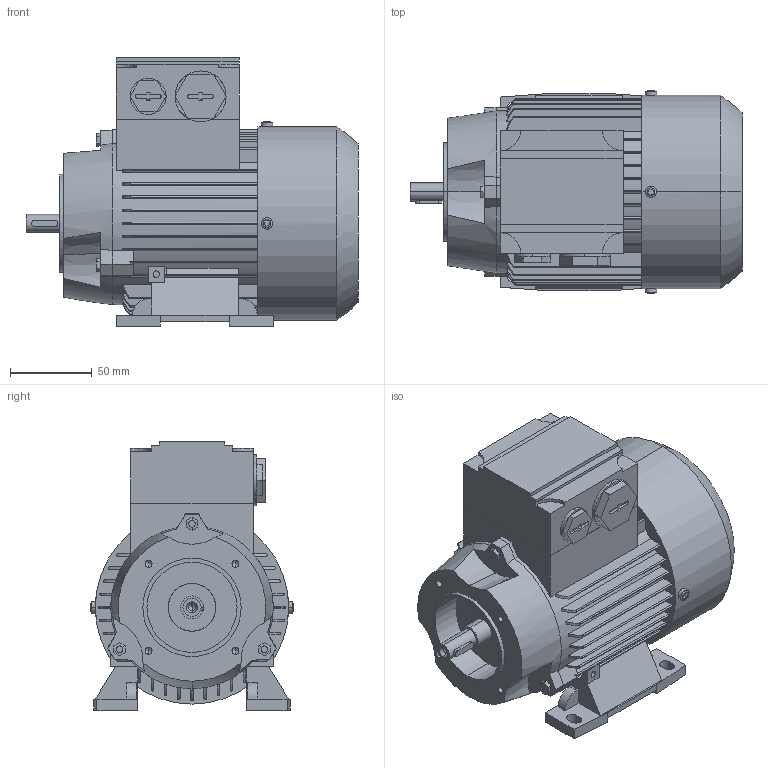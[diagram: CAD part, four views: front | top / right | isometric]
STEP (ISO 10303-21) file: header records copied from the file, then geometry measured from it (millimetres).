
FILE_DESCRIPTION (( 'STEP AP214' ), '1' );
FILE_NAME ('5RN63M04E22 IM2181-A.STEP', '2022-08-09T09:26:00', ( '' ), ( '' ), 'SwSTEP 2.0', 'SolidWorks 2021', '' );
FILE_SCHEMA (( 'AUTOMOTIVE_DESIGN' ));
Length unit declared in the file: millimetre
Products named in the file (1): 5RN63M04E22 IM2181-A
Bounding box: 202.5 x 124 x 164.29 mm (x, y, z)
Volume: 1917968.1 mm3; surface area: 153780.2 mm2
Topology: 1 solids, 1 shells, 571 faces, 1550 edges, 1007 vertices
Faces by surface type: plane 339, cylinder 160, torus 38, cone 34
Entity records: 19980 total; most frequent: CARTESIAN_POINT 5355, ORIENTED_EDGE 3080, DIRECTION 2931, EDGE_CURVE 1540, VERTEX_POINT 1007, LINE 987, VECTOR 987, AXIS2_PLACEMENT_3D 972
